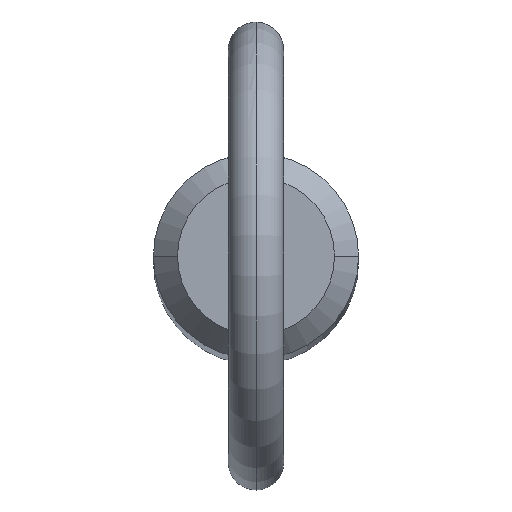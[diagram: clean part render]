
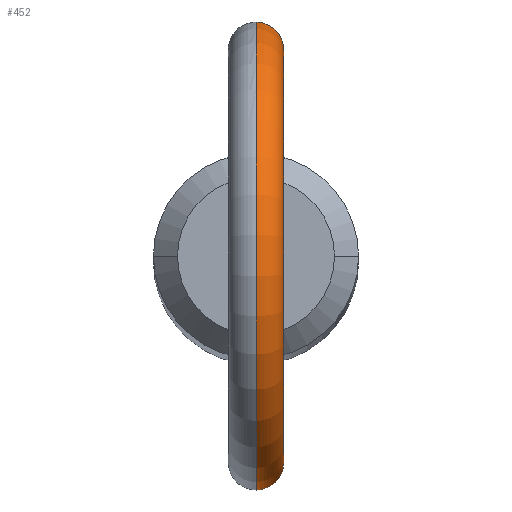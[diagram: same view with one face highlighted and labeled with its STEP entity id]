
A CAD part, top view. The second image highlights one B-rep face of the part: STEP entity #452.
In plain terms, the highlighted toroidal (fillet/blend) face has major radius 11.2 mm and minor radius 1.5 mm.
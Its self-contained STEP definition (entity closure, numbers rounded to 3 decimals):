
#6 = CARTESIAN_POINT ( 'NONE',  ( 1.003, 5.459, 164.225 ) ) ;
#7 = VERTEX_POINT ( 'NONE', #174 ) ;
#8 = CARTESIAN_POINT ( 'NONE',  ( 0., 0., 172.7 ) ) ;
#9 = CARTESIAN_POINT ( 'NONE',  ( 0., -5.55, 164.745 ) ) ;
#13 = CARTESIAN_POINT ( 'NONE',  ( 1.363, -5.38, 162.134 ) ) ;
#16 = ORIENTED_EDGE ( 'NONE', *, *, #19, .F. ) ;
#17 = CARTESIAN_POINT ( 'NONE',  ( 0.417, -5.535, 164.667 ) ) ;
#19 = EDGE_CURVE ( 'NONE', #438, #428, #76, .T. ) ;
#27 = ORIENTED_EDGE ( 'NONE', *, *, #520, .F. ) ;
#44 = TOROIDAL_SURFACE ( 'NONE', #133, 11.2, 1.5 ) ;
#50 = CARTESIAN_POINT ( 'NONE',  ( 0.107, -5.55, 161.277 ) ) ;
#51 = CARTESIAN_POINT ( 'NONE',  ( 0.694, 5.507, 164.514 ) ) ;
#53 = CARTESIAN_POINT ( 'NONE',  ( 0.523, -5.526, 161.366 ) ) ;
#61 = CARTESIAN_POINT ( 'NONE',  ( 0.213, 5.55, 164.745 ) ) ;
#68 = CARTESIAN_POINT ( 'NONE',  ( 1.509, 5.341, 162.753 ) ) ;
#73 = AXIS2_PLACEMENT_3D ( 'NONE', #79, #118, #329 ) ;
#76 = B_SPLINE_CURVE_WITH_KNOTS ( 'NONE', 3,
 ( #142, #274, #319, #356, #394, #392, #279, #439, #138, #476, #108, #396, #68, #358, #85, #456, #201, #6, #333, #375, #51, #465, #61, #92 ),
 .UNSPECIFIED., .F., .F.,
 ( 4, 2, 2, 2, 2, 2, 2, 2, 2, 2, 2, 4 ),
 ( 0.001, 0.001, 0.001, 0.002, 0.002, 0.002, 0.003, 0.004, 0.004, 0.005, 0.005, 0.006 ),
 .UNSPECIFIED. ) ;
#77 = ORIENTED_EDGE ( 'NONE', *, *, #179, .T. ) ;
#79 = CARTESIAN_POINT ( 'NONE',  ( 0., 0., 172.7 ) ) ;
#81 = CIRCLE ( 'NONE', #73, 9.7 ) ;
#82 = CARTESIAN_POINT ( 'NONE',  ( 0.106, -5.55, 164.745 ) ) ;
#85 = CARTESIAN_POINT ( 'NONE',  ( 1.44, 5.36, 163.388 ) ) ;
#88 = DIRECTION ( 'NONE',  ( 1., 0., 0. ) ) ;
#92 = CARTESIAN_POINT ( 'NONE',  ( 0., 5.55, 164.745 ) ) ;
#96 = CARTESIAN_POINT ( 'NONE',  ( 1.455, -5.356, 162.438 ) ) ;
#98 = CARTESIAN_POINT ( 'NONE',  ( 1.055, -5.449, 161.705 ) ) ;
#108 = CARTESIAN_POINT ( 'NONE',  ( 1.393, 5.372, 162.233 ) ) ;
#109 = DIRECTION ( 'NONE',  ( 1., 0., 0. ) ) ;
#118 = DIRECTION ( 'NONE',  ( 1., 0., 0. ) ) ;
#133 = AXIS2_PLACEMENT_3D ( 'NONE', #8, #88, #459 ) ;
#138 = CARTESIAN_POINT ( 'NONE',  ( 1.251, 5.407, 161.95 ) ) ;
#142 = CARTESIAN_POINT ( 'NONE',  ( 0., 5.55, 161.277 ) ) ;
#165 = AXIS2_PLACEMENT_3D ( 'NONE', #276, #109, #516 ) ;
#167 = CARTESIAN_POINT ( 'NONE',  ( 0.213, -5.547, 161.288 ) ) ;
#172 = CARTESIAN_POINT ( 'NONE',  ( 0.941, -5.471, 164.307 ) ) ;
#174 = CARTESIAN_POINT ( 'NONE',  ( 0., -5.55, 161.277 ) ) ;
#179 = EDGE_CURVE ( 'NONE', #438, #7, #482, .T. ) ;
#201 = CARTESIAN_POINT ( 'NONE',  ( 1.194, 5.422, 163.972 ) ) ;
#220 = CARTESIAN_POINT ( 'NONE',  ( 1.295, -5.397, 163.782 ) ) ;
#226 = EDGE_LOOP ( 'NONE', ( #16, #77, #27, #227 ) ) ;
#227 = ORIENTED_EDGE ( 'NONE', *, *, #390, .F. ) ;
#258 = CARTESIAN_POINT ( 'NONE',  ( 0.786, -5.497, 164.457 ) ) ;
#267 = CARTESIAN_POINT ( 'NONE',  ( 0.214, -5.547, 164.728 ) ) ;
#274 = CARTESIAN_POINT ( 'NONE',  ( 0.107, 5.55, 161.277 ) ) ;
#276 = CARTESIAN_POINT ( 'NONE',  ( 0., 0., 172.7 ) ) ;
#279 = CARTESIAN_POINT ( 'NONE',  ( 0.984, 5.464, 161.624 ) ) ;
#298 = CARTESIAN_POINT ( 'NONE',  ( 1.486, -5.347, 163.174 ) ) ;
#300 = CARTESIAN_POINT ( 'NONE',  ( 0.421, -5.535, 161.332 ) ) ;
#301 = CARTESIAN_POINT ( 'NONE',  ( 1.5, -5.343, 162.754 ) ) ;
#302 = FACE_OUTER_BOUND ( 'NONE', #226, .T. ) ;
#319 = CARTESIAN_POINT ( 'NONE',  ( 0.212, 5.547, 161.288 ) ) ;
#329 = DIRECTION ( 'NONE',  ( 0., 0., -1. ) ) ;
#333 = CARTESIAN_POINT ( 'NONE',  ( 0.933, 5.472, 164.304 ) ) ;
#337 = CARTESIAN_POINT ( 'NONE',  ( 0., -5.55, 161.277 ) ) ;
#340 = CARTESIAN_POINT ( 'NONE',  ( 0.515, -5.527, 164.622 ) ) ;
#342 = CARTESIAN_POINT ( 'NONE',  ( 0.807, -5.492, 161.506 ) ) ;
#344 = CARTESIAN_POINT ( 'NONE',  ( 1.44, -5.36, 163.386 ) ) ;
#356 = CARTESIAN_POINT ( 'NONE',  ( 0.419, 5.535, 161.332 ) ) ;
#358 = CARTESIAN_POINT ( 'NONE',  ( 1.485, 5.348, 163.178 ) ) ;
#375 = CARTESIAN_POINT ( 'NONE',  ( 0.779, 5.496, 164.448 ) ) ;
#382 = CARTESIAN_POINT ( 'NONE',  ( 0.716, -5.504, 161.452 ) ) ;
#390 = EDGE_CURVE ( 'NONE', #428, #513, #81, .T. ) ;
#392 = CARTESIAN_POINT ( 'NONE',  ( 0.81, 5.494, 161.495 ) ) ;
#394 = CARTESIAN_POINT ( 'NONE',  ( 0.522, 5.526, 161.365 ) ) ;
#396 = CARTESIAN_POINT ( 'NONE',  ( 1.486, 5.348, 162.538 ) ) ;
#415 = CARTESIAN_POINT ( 'NONE',  ( 0., 5.55, 161.277 ) ) ;
#422 = CARTESIAN_POINT ( 'NONE',  ( 0.977, -5.464, 161.632 ) ) ;
#428 = VERTEX_POINT ( 'NONE', #493 ) ;
#430 = CARTESIAN_POINT ( 'NONE',  ( 1.194, -5.422, 163.971 ) ) ;
#438 = VERTEX_POINT ( 'NONE', #415 ) ;
#439 = CARTESIAN_POINT ( 'NONE',  ( 1.19, 5.421, 161.862 ) ) ;
#442 = B_SPLINE_CURVE_WITH_KNOTS ( 'NONE', 3,
 ( #9, #82, #267, #17, #340, #258, #172, #430, #220, #344, #298, #498, #301, #500, #96, #13, #506, #98, #422, #342, #382, #53, #300, #167, #50, #337 ),
 .UNSPECIFIED., .F., .F.,
 ( 4, 2, 2, 2, 2, 2, 2, 2, 2, 2, 2, 2, 4 ),
 ( 0.005, 0.005, 0.005, 0.006, 0.006, 0.007, 0.007, 0.008, 0.008, 0.009, 0.009, 0.009, 0.01 ),
 .UNSPECIFIED. ) ;
#452 = ADVANCED_FACE ( 'NONE', ( #302 ), #44, .T. ) ;
#456 = CARTESIAN_POINT ( 'NONE',  ( 1.294, 5.398, 163.785 ) ) ;
#459 = DIRECTION ( 'NONE',  ( 0., 0., -1. ) ) ;
#465 = CARTESIAN_POINT ( 'NONE',  ( 0.422, 5.537, 164.678 ) ) ;
#471 = CARTESIAN_POINT ( 'NONE',  ( 0., -5.55, 164.745 ) ) ;
#476 = CARTESIAN_POINT ( 'NONE',  ( 1.352, 5.383, 162.135 ) ) ;
#482 = CIRCLE ( 'NONE', #165, 12.7 ) ;
#493 = CARTESIAN_POINT ( 'NONE',  ( 0., 5.55, 164.745 ) ) ;
#498 = CARTESIAN_POINT ( 'NONE',  ( 1.503, -5.343, 162.859 ) ) ;
#500 = CARTESIAN_POINT ( 'NONE',  ( 1.477, -5.35, 162.544 ) ) ;
#506 = CARTESIAN_POINT ( 'NONE',  ( 1.26, -5.407, 161.943 ) ) ;
#513 = VERTEX_POINT ( 'NONE', #471 ) ;
#516 = DIRECTION ( 'NONE',  ( 0., 0., -1. ) ) ;
#520 = EDGE_CURVE ( 'NONE', #513, #7, #442, .T. ) ;
